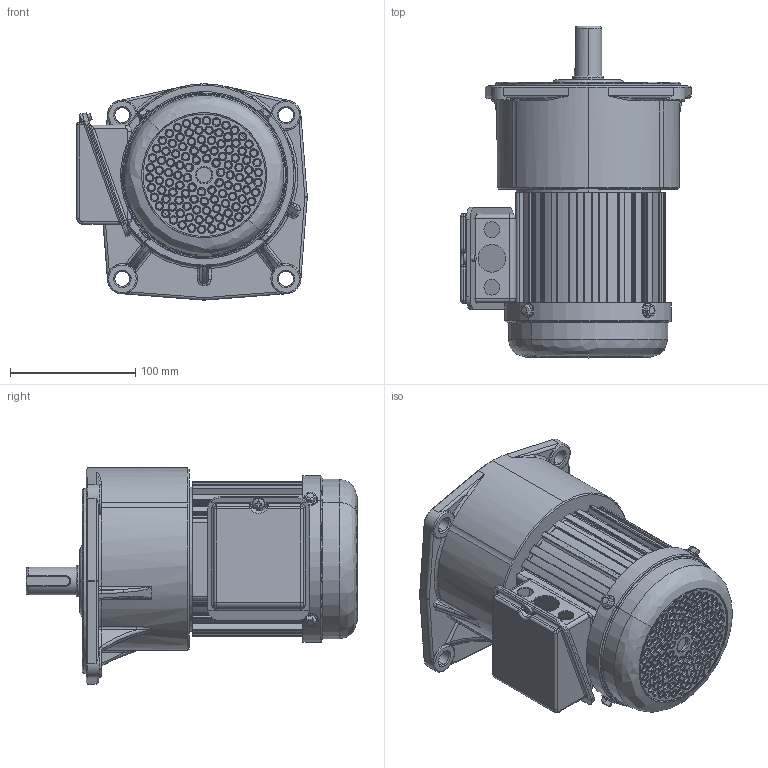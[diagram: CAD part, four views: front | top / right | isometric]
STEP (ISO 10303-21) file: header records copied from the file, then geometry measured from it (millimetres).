
FILE_DESCRIPTION (( 'STEP AP203' ), '1' );
FILE_NAME ('单相100W2#立式.STEP', '2015-10-23T00:29:54', ( '微软中国' ), ( '微软用户' ), 'SwSTEP 2.0', 'SolidWorks 2009', '' );
FILE_SCHEMA (( 'CONFIG_CONTROL_DESIGN' ));
Products named in the file (12): 2#蕾宒熬厒ん; 蚾饜极3; 錨璃8^蚾饜极1; 等眈100W2#蕾宒; 100W儂褲; 100W綴裔; 瑞欶盓殤; 100W瑞欶; Hex Flange Bolts-Heavy Grade B GB_GB_FASTENER_BOLT_HFBB M5X10-N; 等眈100W諉盄碟釱; 等眈100W諉盄碟裔; Cross recessed pan head screws GB_GB_CROSS_SCREWS_TYPE1 M5X6-6  H type-N
Assembly tree (16 placements, depth 3):
  錨璃8^蚾饜极1
  等眈100W2#蕾宒
    Hex Flange Bolts-Heavy Grade B GB_GB_FASTENER_BOLT_HFBB M5X10-N  x4
    100W儂褲
    瑞欶盓殤  x4
    100W瑞欶
    蚾饜极3
      Cross recessed pan head screws GB_GB_CROSS_SCREWS_TYPE1 M5X6-6  H type-N
      等眈100W諉盄碟釱
      等眈100W諉盄碟裔
    100W綴裔
    2#蕾宒熬厒ん
Bounding box: 184.38 x 265.5 x 172.99 mm (x, y, z)
Volume: 1954489.9 mm3; surface area: 339800.9 mm2
Topology: 15 solids, 15 shells, 1633 faces, 4245 edges, 2634 vertices
Faces by surface type: bspline 745, cylinder 521, plane 307, torus 30, cone 24, sphere 6
Entity records: 65400 total; most frequent: CARTESIAN_POINT 28738, ORIENTED_EDGE 7928, DIRECTION 7000, EDGE_CURVE 3964, AXIS2_PLACEMENT_3D 2876, VERTEX_POINT 2478, CIRCLE 2067, EDGE_LOOP 1806
